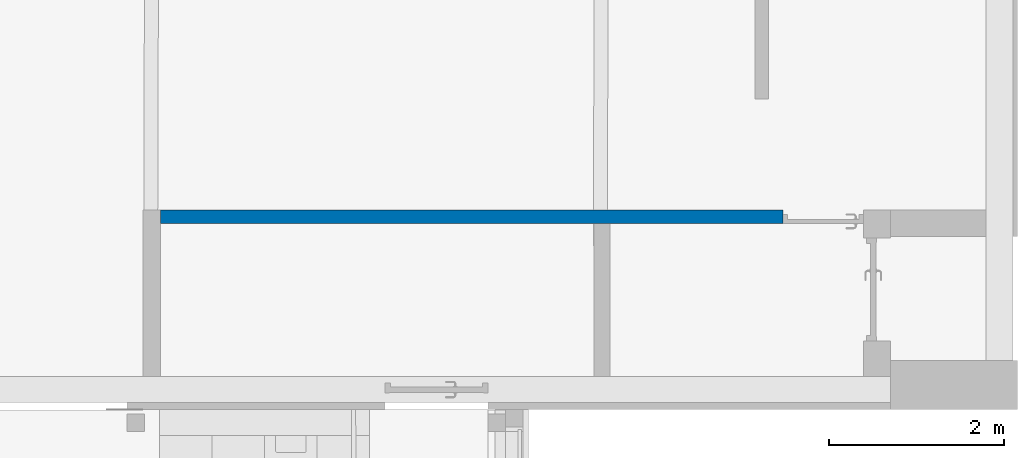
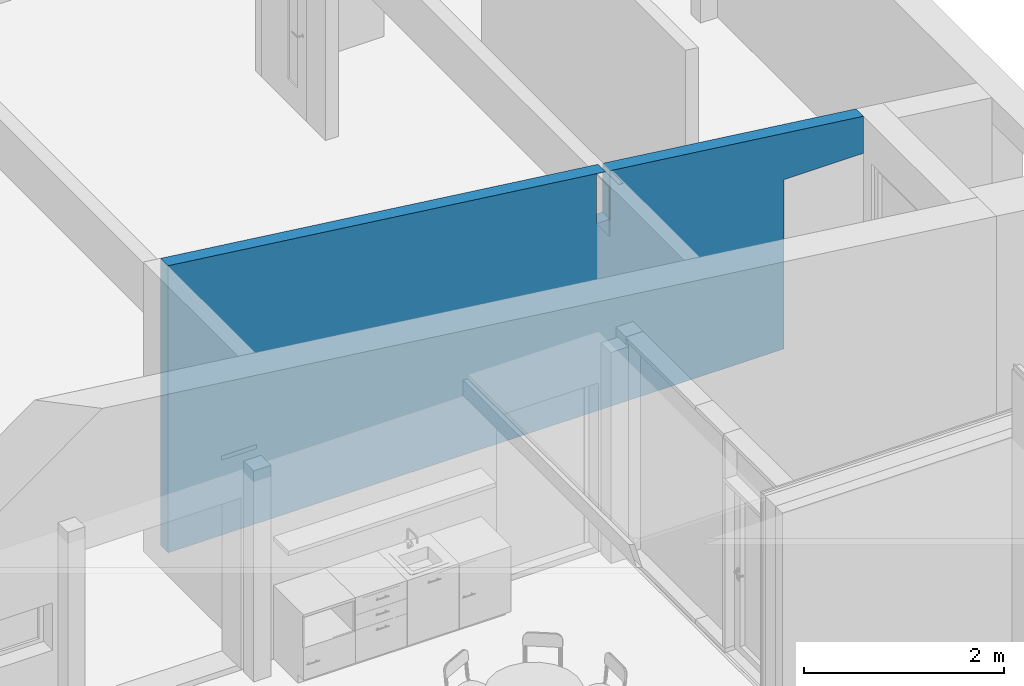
# One storey, part 161 of 301: 1 wall, 1 opening.
"""IFC2X3 building model written with IfcOpenShell, lengths in millimetres."""

from ifc_helpers import new_model, entity, si_unit, converted_unit, derived_unit, money_unit, direction, frame, origin_with_axes, place, context, subcontext, project, spatial, faceted_brep, material, type_object, element, save


model = new_model("IFC2X3")

# Units and contexts
model_context = context("Model", 3, precision=0.01, world=origin_with_axes(), true_north=direction((0.0, 1.0)))
body_context = subcontext(model_context, "Body", "Model", "MODEL_VIEW")
ifc_project = project(units=[si_unit("LENGTHUNIT", "METRE", prefix="MILLI"), si_unit("AREAUNIT", "SQUARE_METRE"), si_unit("VOLUMEUNIT", "CUBIC_METRE"), converted_unit("PLANEANGLEUNIT", "DEGREE", entity("IfcPlaneAngleMeasure", 0.0174532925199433), si_unit("PLANEANGLEUNIT", "RADIAN"), dimensions=[0, 0, 0, 0, 0, 0, 0]), money_unit("EUR"), converted_unit("TIMEUNIT", "Year", entity("IfcTimeMeasure", 31557600.0), si_unit("TIMEUNIT", "SECOND"), dimensions=[0, 0, 1, 0, 0, 0, 0]), si_unit("MASSUNIT", "GRAM", prefix="KILO"), si_unit("THERMODYNAMICTEMPERATUREUNIT", "DEGREE_CELSIUS"), si_unit("LUMINOUSINTENSITYUNIT", "LUMEN"), si_unit("ENERGYUNIT", "JOULE", prefix="MEGA"), derived_unit("THERMALCONDUCTANCEUNIT", [(si_unit("POWERUNIT", "WATT"), 1), (si_unit("LENGTHUNIT", "METRE"), -1), (si_unit("THERMODYNAMICTEMPERATUREUNIT", "KELVIN"), -1)]), derived_unit("SPECIFICHEATCAPACITYUNIT", [(si_unit("ENERGYUNIT", "JOULE"), 1), (si_unit("MASSUNIT", "GRAM", prefix="KILO"), -1), (si_unit("THERMODYNAMICTEMPERATUREUNIT", "KELVIN"), -1)]), derived_unit("MASSDENSITYUNIT", [(si_unit("MASSUNIT", "GRAM", prefix="KILO"), 1), (si_unit("VOLUMEUNIT", "CUBIC_METRE"), -1)])], contexts=[model_context])

# Site, building, storey
site_placement = place(None, frame((0.0, 0.0, 8650.0), z_axis=(0.0, 0.0, 1.0), x_axis=(1.0, 0.0, 0.0)))
site = spatial("IfcSite", under=ifc_project, at=site_placement, Name="43301:001:0844", CompositionType="ELEMENT")
building_placement = place(site_placement, origin_with_axes())
building = spatial("IfcBuilding", under=site, at=building_placement, Name="Kuressaare Ametikooli tuulikute mehaanikute õppekorpus", CompositionType="ELEMENT")
storey_placement = place(building_placement, origin_with_axes())
storey = spatial("IfcBuildingStorey", under=building, at=storey_placement, Name="1.korrus", CompositionType="ELEMENT", Elevation=0.0)

# Wall, opening
ifc_material = material(Name="GENEERILINE - KONSTRUKTRIOON")
wall_type = type_object("IfcWallType", Name="GENEERILINE - KONSTRUKTRIOON 150", PredefinedType="NOTDEFINED")
wall_placement = place(storey_placement, frame((134369.3561716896, 34208.5843650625, 0.0), z_axis=(0.0, 0.0, 1.0), x_axis=(-1.0, -2.11370573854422e-09, 0.0)))
wall = element("IfcWall", 1, at=wall_placement, inside=storey, type_object=wall_type, material=ifc_material, context=body_context, shape_type="Brep", body=[
    faceted_brep([(3.170725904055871e-07, 149.9999999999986, 2070.0), (0.0, 0.0, 2070.0), (0.0, 0.0, 2523.590723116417), (3.170441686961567e-07, 149.9999999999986, 2523.590722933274), (919.9999999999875, -1.944613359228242e-06, 2070.0), (920.0000003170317, 149.9999980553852, 2070.0), (919.9999999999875, -1.944613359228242e-06, 0.0), (8041.590953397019, -1.699756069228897e-05, 0.0), (8041.590953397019, -1.699756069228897e-05, 3510.97393729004), (2981.013802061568, -6.300986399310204e-06, 2889.613193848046), (3088.04632478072, -6.52722320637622e-06, 2889.613193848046), (3088.04632478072, -6.52722320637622e-06, 2289.613193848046), (2928.045952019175, -6.189033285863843e-06, 2289.613193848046), (2928.045952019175, -6.189033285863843e-06, 2883.10955963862), (2928.369741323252, 149.9999938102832, 2883.149315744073), (2928.369741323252, 149.9999938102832, 2289.613193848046), (3088.370114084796, 149.9999934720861, 2289.613193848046), (3088.370114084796, 149.9999934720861, 2889.613193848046), (2981.013803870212, 149.9999936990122, 2889.613193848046), (8041.590953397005, 149.9999830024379, 3510.973937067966), (8041.590953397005, 149.9999830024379, 0.0), (920.0000003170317, 149.9999980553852, 0.0)], [[[0, 1, 2, 3]], [[4, 1, 0, 5]], [[4, 6, 7, 8, 9, 10, 11, 12, 13, 2, 1]], [[2, 13, 14, 3]], [[5, 0, 3, 14, 15, 16, 17, 18, 19, 20, 21]], [[6, 4, 5, 21]], [[6, 21, 20, 7]], [[7, 20, 19, 8]], [[18, 9, 8, 19]], [[10, 9, 18, 17]], [[11, 10, 17, 16]], [[12, 11, 16, 15]], [[12, 15, 14, 13]]]),
])
opening_placement = place(wall_placement, frame((460.000000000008, 0.0, 0.0), z_axis=(0.0, 0.0, 1.0), x_axis=(1.0, 0.0, 0.0)))
element("IfcOpeningElement", 2, at=opening_placement, cuts=wall, context=body_context, shape_type="Brep", body=[
    faceted_brep([(-460.0000000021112, -0.9999999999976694, 2070.0), (-460.0000000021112, -0.9999999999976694, 0.0), (459.9999999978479, -1.000001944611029, 0.0), (459.9999999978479, -1.000001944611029, 2070.0), (-459.9999996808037, 151.0000174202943, 2070.0), (-459.9999996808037, 151.0000174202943, 0.0), (460.0000003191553, 151.000015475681, 0.0), (460.0000003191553, 151.000015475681, 2070.0)], [[[0, 1, 2, 3]], [[4, 5, 1, 0]], [[5, 6, 2, 1]], [[6, 7, 3, 2]], [[7, 4, 0, 3]], [[6, 5, 4, 7]]]),
])

save(model, "model.ifc")
